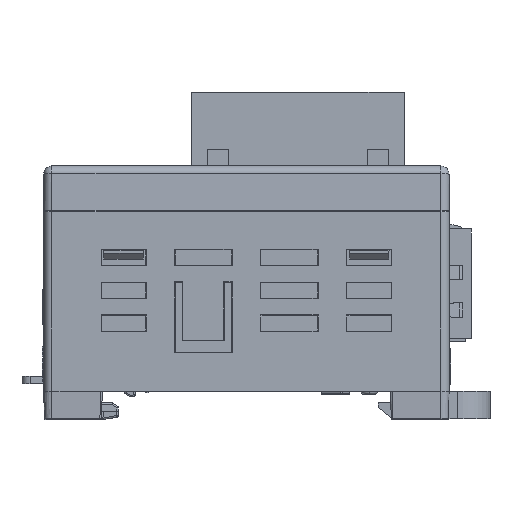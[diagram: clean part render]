
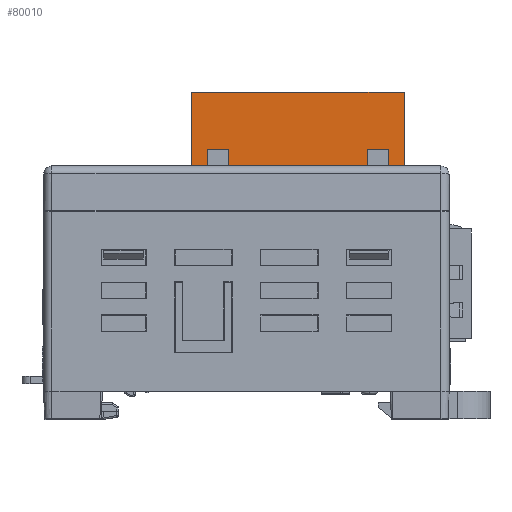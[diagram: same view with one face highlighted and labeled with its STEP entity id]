
A CAD part, left-side view. The second image highlights one B-rep face of the part: STEP entity #80010.
In plain terms, the highlighted planar face has unit normal (-1, 0, 0).
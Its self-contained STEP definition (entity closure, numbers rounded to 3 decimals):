
#224=DIRECTION('',(0.,-1.,0.));
#225=VECTOR('',#224,0.9);
#226=CARTESIAN_POINT('',(-13.22,-17.35,28.));
#227=LINE('',#226,#225);
#228=DIRECTION('',(0.,-1.,0.));
#229=VECTOR('',#228,2.6);
#230=CARTESIAN_POINT('',(-13.22,-14.75,33.));
#231=LINE('',#230,#229);
#232=DIRECTION('',(0.,0.,1.));
#233=VECTOR('',#232,5.);
#234=CARTESIAN_POINT('',(-13.22,-14.75,28.));
#235=LINE('',#234,#233);
#236=DIRECTION('',(0.,-1.,0.));
#237=VECTOR('',#236,1.45);
#238=CARTESIAN_POINT('',(-13.22,-13.3,28.));
#239=LINE('',#238,#237);
#240=DIRECTION('',(0.,-1.,0.));
#241=VECTOR('',#240,5.5);
#242=CARTESIAN_POINT('',(-13.22,-6.8,28.));
#243=LINE('',#242,#241);
#244=DIRECTION('',(0.,-1.,0.));
#245=VECTOR('',#244,5.5);
#246=CARTESIAN_POINT('',(-13.22,-0.3,28.));
#247=LINE('',#246,#245);
#248=DIRECTION('',(0.,-1.,0.));
#249=VECTOR('',#248,1.45);
#250=CARTESIAN_POINT('',(-13.22,2.15,28.));
#251=LINE('',#250,#249);
#252=DIRECTION('',(0.,-1.,0.));
#253=VECTOR('',#252,0.9);
#254=CARTESIAN_POINT('',(-13.22,5.65,28.));
#255=LINE('',#254,#253);
#1216=DIRECTION('',(0.,1.,0.));
#1217=VECTOR('',#1216,1.);
#1218=CARTESIAN_POINT('',(-13.22,-19.25,27.5));
#1219=LINE('',#1218,#1217);
#1232=DIRECTION('',(0.,1.,0.));
#1233=VECTOR('',#1232,1.);
#1234=CARTESIAN_POINT('',(-13.22,-13.3,27.5));
#1235=LINE('',#1234,#1233);
#1248=DIRECTION('',(0.,1.,0.));
#1249=VECTOR('',#1248,1.);
#1250=CARTESIAN_POINT('',(-13.22,-6.8,27.5));
#1251=LINE('',#1250,#1249);
#1264=DIRECTION('',(0.,1.,0.));
#1265=VECTOR('',#1264,1.);
#1266=CARTESIAN_POINT('',(-13.22,-0.3,27.5));
#1267=LINE('',#1266,#1265);
#1280=DIRECTION('',(0.,1.,0.));
#1281=VECTOR('',#1280,1.);
#1282=CARTESIAN_POINT('',(-13.22,5.65,27.5));
#1283=LINE('',#1282,#1281);
#8570=DIRECTION('',(0.,0.,-1.));
#8571=VECTOR('',#8570,5.);
#8572=CARTESIAN_POINT('',(-13.22,-17.35,33.));
#8573=LINE('',#8572,#8571);
#8682=DIRECTION('',(0.,0.,-1.));
#8683=VECTOR('',#8682,12.5);
#8684=CARTESIAN_POINT('',(-13.22,-19.25,40.));
#8685=LINE('',#8684,#8683);
#8814=DIRECTION('',(0.,0.,1.));
#8815=VECTOR('',#8814,12.5);
#8816=CARTESIAN_POINT('',(-13.22,6.65,27.5));
#8817=LINE('',#8816,#8815);
#10564=DIRECTION('',(0.,0.,-1.));
#10565=VECTOR('',#10564,0.5);
#10566=CARTESIAN_POINT('',(-13.22,5.65,28.));
#10567=LINE('',#10566,#10565);
#11188=DIRECTION('',(0.,0.,1.));
#11189=VECTOR('',#11188,5.);
#11190=CARTESIAN_POINT('',(-13.22,4.75,28.));
#11191=LINE('',#11190,#11189);
#11208=DIRECTION('',(0.,-1.,0.));
#11209=VECTOR('',#11208,2.6);
#11210=CARTESIAN_POINT('',(-13.22,4.75,33.));
#11211=LINE('',#11210,#11209);
#11216=DIRECTION('',(0.,0.,-1.));
#11217=VECTOR('',#11216,5.);
#11218=CARTESIAN_POINT('',(-13.22,2.15,33.));
#11219=LINE('',#11218,#11217);
#12836=DIRECTION('',(0.,-1.,0.));
#12837=VECTOR('',#12836,25.9);
#12838=CARTESIAN_POINT('',(-13.22,6.65,40.));
#12839=LINE('',#12838,#12837);
#12948=DIRECTION('',(0.,0.,1.));
#12949=VECTOR('',#12948,0.5);
#12950=CARTESIAN_POINT('',(-13.22,-18.25,27.5));
#12951=LINE('',#12950,#12949);
#58894=DIRECTION('',(0.,0.,-1.));
#58895=VECTOR('',#58894,0.5);
#58896=CARTESIAN_POINT('',(-13.22,-13.3,28.));
#58897=LINE('',#58896,#58895);
#58918=DIRECTION('',(0.,0.,1.));
#58919=VECTOR('',#58918,0.5);
#58920=CARTESIAN_POINT('',(-13.22,-12.3,27.5));
#58921=LINE('',#58920,#58919);
#58922=DIRECTION('',(0.,0.,-1.));
#58923=VECTOR('',#58922,0.5);
#58924=CARTESIAN_POINT('',(-13.22,-6.8,28.));
#58925=LINE('',#58924,#58923);
#58946=DIRECTION('',(0.,0.,1.));
#58947=VECTOR('',#58946,0.5);
#58948=CARTESIAN_POINT('',(-13.22,-5.8,27.5));
#58949=LINE('',#58948,#58947);
#58950=DIRECTION('',(0.,0.,-1.));
#58951=VECTOR('',#58950,0.5);
#58952=CARTESIAN_POINT('',(-13.22,-0.3,28.));
#58953=LINE('',#58952,#58951);
#58974=DIRECTION('',(0.,0.,1.));
#58975=VECTOR('',#58974,0.5);
#58976=CARTESIAN_POINT('',(-13.22,0.7,27.5));
#58977=LINE('',#58976,#58975);
#67478=CARTESIAN_POINT('',(-13.22,-14.75,28.));
#67480=VERTEX_POINT('',#67478);
#67483=CARTESIAN_POINT('',(-13.22,-17.35,28.));
#67484=VERTEX_POINT('',#67483);
#67485=CARTESIAN_POINT('',(-13.22,-18.25,28.));
#67486=VERTEX_POINT('',#67485);
#67563=CARTESIAN_POINT('',(-13.22,5.65,28.));
#67564=VERTEX_POINT('',#67563);
#67565=CARTESIAN_POINT('',(-13.22,4.75,28.));
#67566=VERTEX_POINT('',#67565);
#67571=CARTESIAN_POINT('',(-13.22,2.15,28.));
#67572=VERTEX_POINT('',#67571);
#67573=CARTESIAN_POINT('',(-13.22,0.7,28.));
#67574=VERTEX_POINT('',#67573);
#67579=CARTESIAN_POINT('',(-13.22,-0.3,28.));
#67580=VERTEX_POINT('',#67579);
#67581=CARTESIAN_POINT('',(-13.22,-5.8,28.));
#67582=VERTEX_POINT('',#67581);
#67587=CARTESIAN_POINT('',(-13.22,-6.8,28.));
#67588=VERTEX_POINT('',#67587);
#67589=CARTESIAN_POINT('',(-13.22,-12.3,28.));
#67590=VERTEX_POINT('',#67589);
#67595=CARTESIAN_POINT('',(-13.22,-13.3,28.));
#67596=VERTEX_POINT('',#67595);
#68599=CARTESIAN_POINT('',(-13.22,-17.35,33.));
#68600=VERTEX_POINT('',#68599);
#68601=CARTESIAN_POINT('',(-13.22,-14.75,33.));
#68602=VERTEX_POINT('',#68601);
#68603=CARTESIAN_POINT('',(-13.22,2.15,33.));
#68604=VERTEX_POINT('',#68603);
#68605=CARTESIAN_POINT('',(-13.22,4.75,33.));
#68606=VERTEX_POINT('',#68605);
#68607=CARTESIAN_POINT('',(-13.22,6.65,40.));
#68608=CARTESIAN_POINT('',(-13.22,-19.25,40.));
#68609=VERTEX_POINT('',#68607);
#68610=VERTEX_POINT('',#68608);
#78279=CARTESIAN_POINT('',(-13.22,-19.25,27.5));
#78280=CARTESIAN_POINT('',(-13.22,-18.25,27.5));
#78281=VERTEX_POINT('',#78279);
#78282=VERTEX_POINT('',#78280);
#78283=CARTESIAN_POINT('',(-13.22,-13.3,27.5));
#78284=CARTESIAN_POINT('',(-13.22,-12.3,27.5));
#78285=VERTEX_POINT('',#78283);
#78286=VERTEX_POINT('',#78284);
#78287=CARTESIAN_POINT('',(-13.22,-6.8,27.5));
#78288=CARTESIAN_POINT('',(-13.22,-5.8,27.5));
#78289=VERTEX_POINT('',#78287);
#78290=VERTEX_POINT('',#78288);
#78291=CARTESIAN_POINT('',(-13.22,-0.3,27.5));
#78292=CARTESIAN_POINT('',(-13.22,0.7,27.5));
#78293=VERTEX_POINT('',#78291);
#78294=VERTEX_POINT('',#78292);
#78295=CARTESIAN_POINT('',(-13.22,5.65,27.5));
#78296=CARTESIAN_POINT('',(-13.22,6.65,27.5));
#78297=VERTEX_POINT('',#78295);
#78298=VERTEX_POINT('',#78296);
#79954=CARTESIAN_POINT('',(-13.22,-6.3,33.5));
#79955=DIRECTION('',(1.,0.,0.));
#79956=DIRECTION('',(0.,0.,-1.));
#79957=AXIS2_PLACEMENT_3D('',#79954,#79955,#79956);
#79958=PLANE('',#79957);
#79960=ORIENTED_EDGE('',*,*,#79959,.T.);
#79962=ORIENTED_EDGE('',*,*,#79961,.T.);
#79963=ORIENTED_EDGE('',*,*,#79279,.F.);
#79965=ORIENTED_EDGE('',*,*,#79964,.F.);
#79967=ORIENTED_EDGE('',*,*,#79966,.F.);
#79968=ORIENTED_EDGE('',*,*,#79936,.F.);
#79969=ORIENTED_EDGE('',*,*,#79391,.F.);
#79971=ORIENTED_EDGE('',*,*,#79970,.T.);
#79973=ORIENTED_EDGE('',*,*,#79972,.T.);
#79975=ORIENTED_EDGE('',*,*,#79974,.T.);
#79976=ORIENTED_EDGE('',*,*,#79383,.F.);
#79978=ORIENTED_EDGE('',*,*,#79977,.T.);
#79980=ORIENTED_EDGE('',*,*,#79979,.T.);
#79982=ORIENTED_EDGE('',*,*,#79981,.T.);
#79983=ORIENTED_EDGE('',*,*,#79375,.F.);
#79985=ORIENTED_EDGE('',*,*,#79984,.T.);
#79987=ORIENTED_EDGE('',*,*,#79986,.T.);
#79989=ORIENTED_EDGE('',*,*,#79988,.T.);
#79990=ORIENTED_EDGE('',*,*,#79367,.F.);
#79992=ORIENTED_EDGE('',*,*,#79991,.F.);
#79994=ORIENTED_EDGE('',*,*,#79993,.F.);
#79996=ORIENTED_EDGE('',*,*,#79995,.F.);
#79997=ORIENTED_EDGE('',*,*,#79359,.F.);
#79999=ORIENTED_EDGE('',*,*,#79998,.T.);
#80001=ORIENTED_EDGE('',*,*,#80000,.T.);
#80003=ORIENTED_EDGE('',*,*,#80002,.T.);
#80005=ORIENTED_EDGE('',*,*,#80004,.T.);
#80007=ORIENTED_EDGE('',*,*,#80006,.T.);
#80008=EDGE_LOOP('',(#79960,#79962,#79963,#79965,#79967,#79968,#79969,#79971,
#79973,#79975,#79976,#79978,#79980,#79982,#79983,#79985,#79987,#79989,#79990,
#79992,#79994,#79996,#79997,#79999,#80001,#80003,#80005,#80007));
#80009=FACE_OUTER_BOUND('',#80008,.F.);
#80010=ADVANCED_FACE('',(#80009),#79958,.F.);
#79279=EDGE_CURVE('',#67484,#67486,#227,.T.);
#79359=EDGE_CURVE('',#67564,#67566,#255,.T.);
#79367=EDGE_CURVE('',#67572,#67574,#251,.T.);
#79375=EDGE_CURVE('',#67580,#67582,#247,.T.);
#79383=EDGE_CURVE('',#67588,#67590,#243,.T.);
#79391=EDGE_CURVE('',#67596,#67480,#239,.T.);
#79936=EDGE_CURVE('',#67480,#68602,#235,.T.);
#79959=EDGE_CURVE('',#78281,#78282,#1219,.T.);
#79961=EDGE_CURVE('',#78282,#67486,#12951,.T.);
#79964=EDGE_CURVE('',#68600,#67484,#8573,.T.);
#79966=EDGE_CURVE('',#68602,#68600,#231,.T.);
#79970=EDGE_CURVE('',#67596,#78285,#58897,.T.);
#79972=EDGE_CURVE('',#78285,#78286,#1235,.T.);
#79974=EDGE_CURVE('',#78286,#67590,#58921,.T.);
#79977=EDGE_CURVE('',#67588,#78289,#58925,.T.);
#79979=EDGE_CURVE('',#78289,#78290,#1251,.T.);
#79981=EDGE_CURVE('',#78290,#67582,#58949,.T.);
#79984=EDGE_CURVE('',#67580,#78293,#58953,.T.);
#79986=EDGE_CURVE('',#78293,#78294,#1267,.T.);
#79988=EDGE_CURVE('',#78294,#67574,#58977,.T.);
#79991=EDGE_CURVE('',#68604,#67572,#11219,.T.);
#79993=EDGE_CURVE('',#68606,#68604,#11211,.T.);
#79995=EDGE_CURVE('',#67566,#68606,#11191,.T.);
#79998=EDGE_CURVE('',#67564,#78297,#10567,.T.);
#80000=EDGE_CURVE('',#78297,#78298,#1283,.T.);
#80002=EDGE_CURVE('',#78298,#68609,#8817,.T.);
#80004=EDGE_CURVE('',#68609,#68610,#12839,.T.);
#80006=EDGE_CURVE('',#68610,#78281,#8685,.T.);
